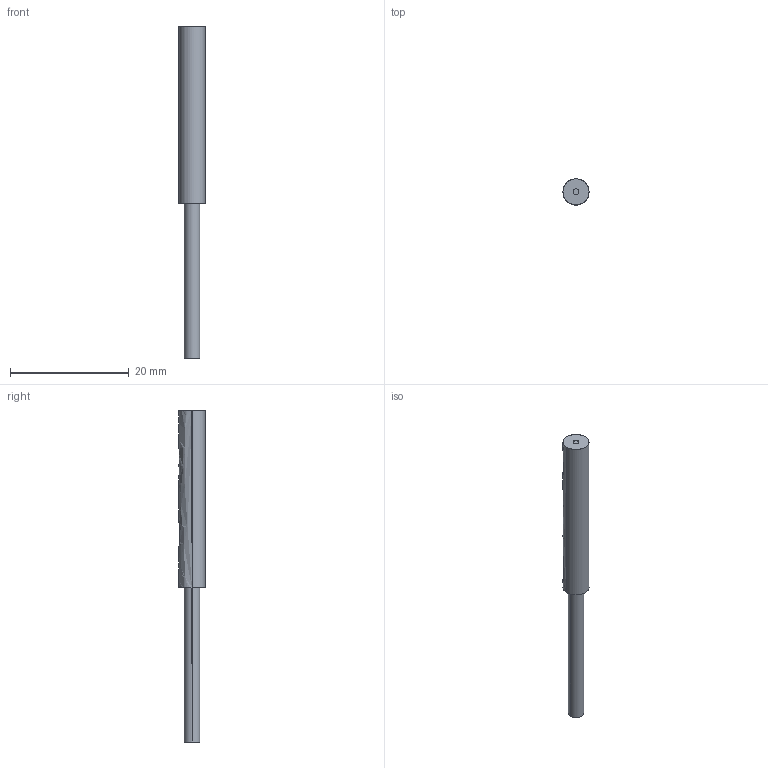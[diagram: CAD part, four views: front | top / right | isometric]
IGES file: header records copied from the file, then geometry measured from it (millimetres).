
Start section: SolidWorks IGES FILE using analytic representation for surfaces
Global section: file name: \\intra-srv04\開発データ\CAD_Data\CAD委員会\3D電子ｶﾀﾛｸﾞ\製品カタログ（新）\0_IGES\GX-4S.IGS,41HSolidWorks 2004; native system: by SolidWorks Corporation; preprocessor: Version 5.3; author: yk0651; date: 050907.101735; units: millimetre
Bounding box: 4.4 x 4.4 x 56 mm (x, y, z)
Surface area: 660.1 mm2 (no closed solid volume)
Topology: 0 solids, 0 shells, 15 faces, 258 edges, 258 vertices
Faces by surface type: revolution 8, bspline 7
